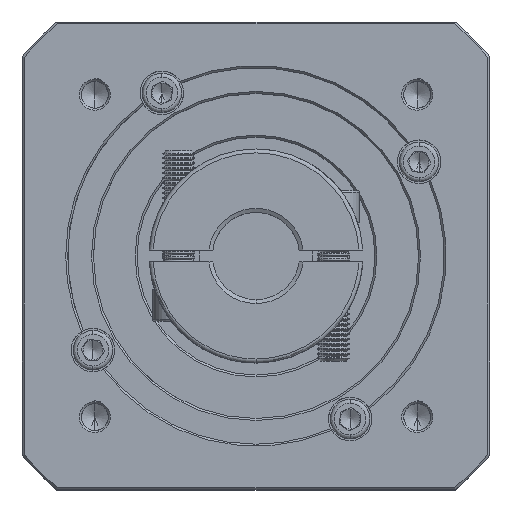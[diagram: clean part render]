
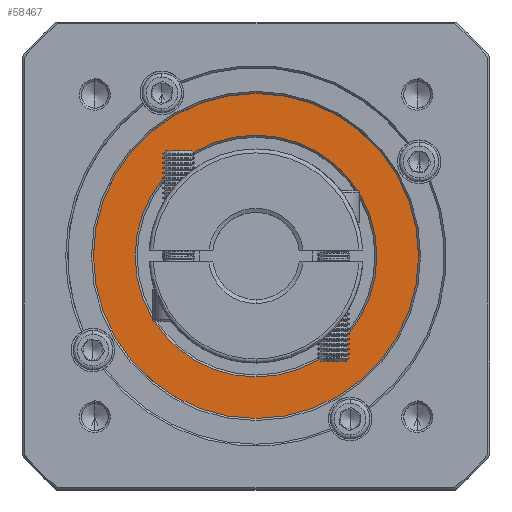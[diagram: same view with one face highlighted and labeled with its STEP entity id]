
A CAD part, top view. The second image highlights one B-rep face of the part: STEP entity #58467.
In plain terms, the highlighted planar face has unit normal (0, 0, 1).
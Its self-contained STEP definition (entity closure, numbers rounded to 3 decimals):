
#1237 = CARTESIAN_POINT ( 'NONE',  ( 48.799, 76.112, -9.212 ) ) ;
#1342 = PLANE ( 'NONE',  #68171 ) ;
#4885 = EDGE_CURVE ( 'NONE', #123402, #52165, #37825, .T. ) ;
#9876 = DIRECTION ( 'NONE',  ( 0., -1., 0. ) ) ;
#12754 = ORIENTED_EDGE ( 'NONE', *, *, #65458, .T. ) ;
#15125 = FACE_OUTER_BOUND ( 'NONE', #48374, .T. ) ;
#26164 = VERTEX_POINT ( 'NONE', #133278 ) ;
#26762 = CIRCLE ( 'NONE', #28332, 30.5 ) ;
#28332 = AXIS2_PLACEMENT_3D ( 'NONE', #95009, #105857, #41213 ) ;
#33572 = DIRECTION ( 'NONE',  ( 0., -1., 0. ) ) ;
#34049 = DIRECTION ( 'NONE',  ( 0., 0., 1. ) ) ;
#35796 = CIRCLE ( 'NONE', #115625, 41. ) ;
#37825 = CIRCLE ( 'NONE', #96315, 41. ) ;
#39122 = DIRECTION ( 'NONE',  ( 0., -1., 0. ) ) ;
#39508 = CARTESIAN_POINT ( 'NONE',  ( 48.799, 106.612, -9.212 ) ) ;
#41213 = DIRECTION ( 'NONE',  ( 0., -1., 0. ) ) ;
#43543 = CARTESIAN_POINT ( 'NONE',  ( 48.799, 76.112, -9.212 ) ) ;
#48374 = EDGE_LOOP ( 'NONE', ( #125808, #12754 ) ) ;
#52165 = VERTEX_POINT ( 'NONE', #101495 ) ;
#58467 = ADVANCED_FACE ( 'NONE', ( #15125, #92659 ), #1342, .T. ) ;
#61339 = EDGE_CURVE ( 'NONE', #26164, #137584, #26762, .T. ) ;
#62796 = EDGE_LOOP ( 'NONE', ( #137772, #103193 ) ) ;
#65458 = EDGE_CURVE ( 'NONE', #52165, #123402, #35796, .T. ) ;
#68171 = AXIS2_PLACEMENT_3D ( 'NONE', #43543, #109109, #76592 ) ;
#74933 = AXIS2_PLACEMENT_3D ( 'NONE', #115002, #136167, #39122 ) ;
#75696 = CARTESIAN_POINT ( 'NONE',  ( 48.799, 35.112, -9.212 ) ) ;
#76592 = DIRECTION ( 'NONE',  ( 0., -1., 0. ) ) ;
#86321 = EDGE_CURVE ( 'NONE', #137584, #26164, #98596, .T. ) ;
#92659 = FACE_BOUND ( 'NONE', #62796, .T. ) ;
#95009 = CARTESIAN_POINT ( 'NONE',  ( 48.799, 76.112, -9.212 ) ) ;
#96315 = AXIS2_PLACEMENT_3D ( 'NONE', #127610, #138878, #9876 ) ;
#98596 = CIRCLE ( 'NONE', #74933, 30.5 ) ;
#101495 = CARTESIAN_POINT ( 'NONE',  ( 48.799, 117.112, -9.212 ) ) ;
#103193 = ORIENTED_EDGE ( 'NONE', *, *, #86321, .T. ) ;
#105857 = DIRECTION ( 'NONE',  ( 0., 0., -1. ) ) ;
#109109 = DIRECTION ( 'NONE',  ( 0., 0., 1. ) ) ;
#115002 = CARTESIAN_POINT ( 'NONE',  ( 48.799, 76.112, -9.212 ) ) ;
#115625 = AXIS2_PLACEMENT_3D ( 'NONE', #1237, #34049, #33572 ) ;
#123402 = VERTEX_POINT ( 'NONE', #75696 ) ;
#125808 = ORIENTED_EDGE ( 'NONE', *, *, #4885, .T. ) ;
#127610 = CARTESIAN_POINT ( 'NONE',  ( 48.799, 76.112, -9.212 ) ) ;
#133278 = CARTESIAN_POINT ( 'NONE',  ( 48.799, 45.612, -9.212 ) ) ;
#136167 = DIRECTION ( 'NONE',  ( 0., 0., -1. ) ) ;
#137584 = VERTEX_POINT ( 'NONE', #39508 ) ;
#137772 = ORIENTED_EDGE ( 'NONE', *, *, #61339, .T. ) ;
#138878 = DIRECTION ( 'NONE',  ( 0., 0., 1. ) ) ;
